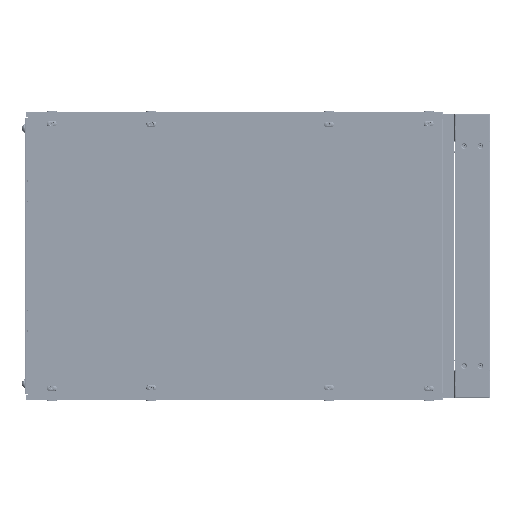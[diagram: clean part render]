
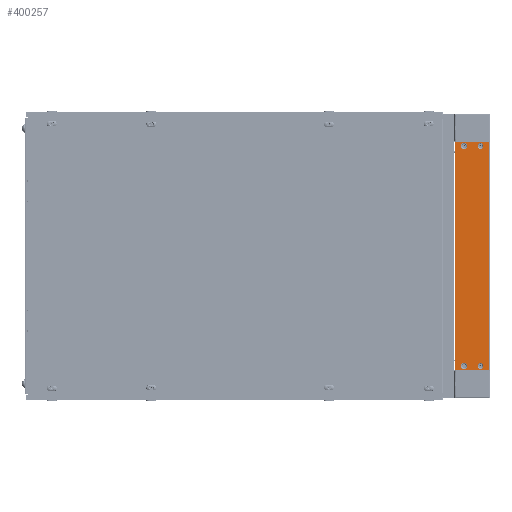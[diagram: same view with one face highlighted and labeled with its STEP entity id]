
A CAD part, left-side view. The second image highlights one B-rep face of the part: STEP entity #400257.
In plain terms, the highlighted planar face has unit normal (-1, 0, 0) as drawn and (0, -1, 0) by its records, which use the part's own axes.
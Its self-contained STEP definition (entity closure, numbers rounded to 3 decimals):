
#1786 = CIRCLE ( 'NONE', #296870, 8.743 ) ;
#3311 = CARTESIAN_POINT ( 'NONE',  ( 11.025, 0., -25.25 ) ) ;
#5370 = CARTESIAN_POINT ( 'NONE',  ( 11.025, 0., -25.25 ) ) ;
#12457 = CARTESIAN_POINT ( 'NONE',  ( 641.04, 0., 0. ) ) ;
#25579 = VERTEX_POINT ( 'NONE', #273164 ) ;
#25928 = CARTESIAN_POINT ( 'NONE',  ( 641.04, 0., -96.5 ) ) ;
#32817 = AXIS2_PLACEMENT_3D ( 'NONE', #221524, #593858, #125758 ) ;
#35091 = EDGE_CURVE ( 'NONE', #70507, #25579, #203721, .T. ) ;
#36405 = DIRECTION ( 'NONE',  ( 0., -1., 0. ) ) ;
#38940 = CARTESIAN_POINT ( 'NONE',  ( 0., 0., 0. ) ) ;
#46630 = ORIENTED_EDGE ( 'NONE', *, *, #508165, .F. ) ;
#55909 = CIRCLE ( 'NONE', #132009, 8.246 ) ;
#64739 = EDGE_LOOP ( 'NONE', ( #244406, #391349 ) ) ;
#65874 = DIRECTION ( 'NONE',  ( 0., 0., 1. ) ) ;
#70507 = VERTEX_POINT ( 'NONE', #217536 ) ;
#72001 = DIRECTION ( 'NONE',  ( 0., -1., 0. ) ) ;
#89650 = EDGE_CURVE ( 'NONE', #151070, #188735, #316711, .T. ) ;
#93564 = LINE ( 'NONE', #38940, #591510 ) ;
#95186 = CARTESIAN_POINT ( 'NONE',  ( 0., 0., -96.5 ) ) ;
#97997 = EDGE_LOOP ( 'NONE', ( #185400, #46630 ) ) ;
#111381 = LINE ( 'NONE', #582845, #235482 ) ;
#121404 = DIRECTION ( 'NONE',  ( 0., -1., 0. ) ) ;
#125758 = DIRECTION ( 'NONE',  ( 0., 0., 1. ) ) ;
#132009 = AXIS2_PLACEMENT_3D ( 'NONE', #599492, #439046, #185970 ) ;
#135337 = ORIENTED_EDGE ( 'NONE', *, *, #578599, .F. ) ;
#151070 = VERTEX_POINT ( 'NONE', #667658 ) ;
#165254 = VERTEX_POINT ( 'NONE', #331822 ) ;
#165535 = AXIS2_PLACEMENT_3D ( 'NONE', #3311, #420173, #628522 ) ;
#173407 = CARTESIAN_POINT ( 'NONE',  ( 11.025, 0., -71.25 ) ) ;
#174474 = CARTESIAN_POINT ( 'NONE',  ( 11.025, 0., -71.25 ) ) ;
#185400 = ORIENTED_EDGE ( 'NONE', *, *, #35091, .F. ) ;
#185970 = DIRECTION ( 'NONE',  ( 0., 0., 1. ) ) ;
#188735 = VERTEX_POINT ( 'NONE', #350189 ) ;
#193379 = DIRECTION ( 'NONE',  ( 0., -1., 0. ) ) ;
#196734 = EDGE_CURVE ( 'NONE', #165254, #423946, #457187, .T. ) ;
#196773 = CARTESIAN_POINT ( 'NONE',  ( 630.015, 0., -71.25 ) ) ;
#201173 = CIRCLE ( 'NONE', #419300, 8.743 ) ;
#203721 = CIRCLE ( 'NONE', #345713, 8.743 ) ;
#209254 = LINE ( 'NONE', #308453, #403330 ) ;
#217536 = CARTESIAN_POINT ( 'NONE',  ( 11.025, 0., -79.993 ) ) ;
#221524 = CARTESIAN_POINT ( 'NONE',  ( 630.015, 0., -25.25 ) ) ;
#226606 = EDGE_LOOP ( 'NONE', ( #260199, #239374, #675664, #629855 ) ) ;
#235482 = VECTOR ( 'NONE', #313031, 1000. ) ;
#239195 = AXIS2_PLACEMENT_3D ( 'NONE', #5370, #121404, #644122 ) ;
#239374 = ORIENTED_EDGE ( 'NONE', *, *, #507081, .F. ) ;
#244406 = ORIENTED_EDGE ( 'NONE', *, *, #455892, .F. ) ;
#245641 = DIRECTION ( 'NONE',  ( 0., 0., -1. ) ) ;
#245651 = CIRCLE ( 'NONE', #550993, 8.743 ) ;
#260199 = ORIENTED_EDGE ( 'NONE', *, *, #569573, .F. ) ;
#273164 = CARTESIAN_POINT ( 'NONE',  ( 11.025, 0., -62.507 ) ) ;
#277453 = ORIENTED_EDGE ( 'NONE', *, *, #327377, .F. ) ;
#296870 = AXIS2_PLACEMENT_3D ( 'NONE', #196773, #193379, #613626 ) ;
#308453 = CARTESIAN_POINT ( 'NONE',  ( 0., 0., 0. ) ) ;
#313031 = DIRECTION ( 'NONE',  ( -1., 0., 0. ) ) ;
#316711 = CIRCLE ( 'NONE', #32817, 8.246 ) ;
#324012 = VERTEX_POINT ( 'NONE', #25928 ) ;
#326048 = CARTESIAN_POINT ( 'NONE',  ( 0., 0., -96.5 ) ) ;
#327377 = EDGE_CURVE ( 'NONE', #188735, #151070, #55909, .T. ) ;
#331822 = CARTESIAN_POINT ( 'NONE',  ( 11.025, 0., -17.004 ) ) ;
#344009 = EDGE_CURVE ( 'NONE', #402180, #631657, #93564, .T. ) ;
#344027 = CARTESIAN_POINT ( 'NONE',  ( 630.015, 0., -71.25 ) ) ;
#344068 = CARTESIAN_POINT ( 'NONE',  ( 630.015, 0., -62.507 ) ) ;
#345713 = AXIS2_PLACEMENT_3D ( 'NONE', #173407, #535697, #638159 ) ;
#348219 = FACE_BOUND ( 'NONE', #97997, .T. ) ;
#350189 = CARTESIAN_POINT ( 'NONE',  ( 630.015, 0., -17.004 ) ) ;
#354913 = DIRECTION ( 'NONE',  ( 0., -1., 0. ) ) ;
#364555 = DIRECTION ( 'NONE',  ( 0., 0., -1. ) ) ;
#371282 = LINE ( 'NONE', #12457, #530048 ) ;
#391349 = ORIENTED_EDGE ( 'NONE', *, *, #196734, .F. ) ;
#396182 = VERTEX_POINT ( 'NONE', #344068 ) ;
#400257 = ADVANCED_FACE ( 'NONE', ( #669229, #604489, #617920, #662445, #348219 ), #563311, .T. ) ;
#402180 = VERTEX_POINT ( 'NONE', #611185 ) ;
#403330 = VECTOR ( 'NONE', #622738, 1000. ) ;
#416808 = CIRCLE ( 'NONE', #165535, 8.246 ) ;
#419300 = AXIS2_PLACEMENT_3D ( 'NONE', #344027, #36405, #65874 ) ;
#420173 = DIRECTION ( 'NONE',  ( 0., -1., 0. ) ) ;
#423946 = VERTEX_POINT ( 'NONE', #505943 ) ;
#427185 = AXIS2_PLACEMENT_3D ( 'NONE', #95186, #354913, #245641 ) ;
#439046 = DIRECTION ( 'NONE',  ( 0., -1., 0. ) ) ;
#455892 = EDGE_CURVE ( 'NONE', #423946, #165254, #416808, .T. ) ;
#457187 = CIRCLE ( 'NONE', #239195, 8.246 ) ;
#462255 = CARTESIAN_POINT ( 'NONE',  ( 641.04, 0., 0. ) ) ;
#462715 = EDGE_CURVE ( 'NONE', #510192, #396182, #1786, .T. ) ;
#484049 = EDGE_LOOP ( 'NONE', ( #135337, #666388 ) ) ;
#505943 = CARTESIAN_POINT ( 'NONE',  ( 11.025, 0., -33.496 ) ) ;
#507081 = EDGE_CURVE ( 'NONE', #324012, #519067, #111381, .T. ) ;
#508165 = EDGE_CURVE ( 'NONE', #25579, #70507, #245651, .T. ) ;
#510192 = VERTEX_POINT ( 'NONE', #660885 ) ;
#511754 = EDGE_LOOP ( 'NONE', ( #277453, #638232 ) ) ;
#519067 = VERTEX_POINT ( 'NONE', #326048 ) ;
#530048 = VECTOR ( 'NONE', #364555, 1000. ) ;
#535697 = DIRECTION ( 'NONE',  ( 0., -1., 0. ) ) ;
#550993 = AXIS2_PLACEMENT_3D ( 'NONE', #174474, #72001, #591351 ) ;
#563311 = PLANE ( 'NONE',  #427185 ) ;
#569573 = EDGE_CURVE ( 'NONE', #519067, #402180, #209254, .T. ) ;
#578599 = EDGE_CURVE ( 'NONE', #396182, #510192, #201173, .T. ) ;
#582845 = CARTESIAN_POINT ( 'NONE',  ( 0., 0., -96.5 ) ) ;
#591351 = DIRECTION ( 'NONE',  ( 0., 0., -1. ) ) ;
#591510 = VECTOR ( 'NONE', #612921, 1000. ) ;
#593858 = DIRECTION ( 'NONE',  ( 0., -1., 0. ) ) ;
#599492 = CARTESIAN_POINT ( 'NONE',  ( 630.015, 0., -25.25 ) ) ;
#604489 = FACE_BOUND ( 'NONE', #511754, .T. ) ;
#611185 = CARTESIAN_POINT ( 'NONE',  ( 0., 0., 0. ) ) ;
#612921 = DIRECTION ( 'NONE',  ( 1., 0., 0. ) ) ;
#613626 = DIRECTION ( 'NONE',  ( 0., 0., 1. ) ) ;
#617920 = FACE_OUTER_BOUND ( 'NONE', #226606, .T. ) ;
#622738 = DIRECTION ( 'NONE',  ( 0., 0., 1. ) ) ;
#627605 = EDGE_CURVE ( 'NONE', #631657, #324012, #371282, .T. ) ;
#628522 = DIRECTION ( 'NONE',  ( 0., 0., -1. ) ) ;
#629855 = ORIENTED_EDGE ( 'NONE', *, *, #344009, .F. ) ;
#631657 = VERTEX_POINT ( 'NONE', #462255 ) ;
#638159 = DIRECTION ( 'NONE',  ( 0., 0., -1. ) ) ;
#638232 = ORIENTED_EDGE ( 'NONE', *, *, #89650, .F. ) ;
#644122 = DIRECTION ( 'NONE',  ( 0., 0., -1. ) ) ;
#660885 = CARTESIAN_POINT ( 'NONE',  ( 630.015, 0., -79.993 ) ) ;
#662445 = FACE_BOUND ( 'NONE', #64739, .T. ) ;
#666388 = ORIENTED_EDGE ( 'NONE', *, *, #462715, .F. ) ;
#667658 = CARTESIAN_POINT ( 'NONE',  ( 630.015, 0., -33.496 ) ) ;
#669229 = FACE_BOUND ( 'NONE', #484049, .T. ) ;
#675664 = ORIENTED_EDGE ( 'NONE', *, *, #627605, .F. ) ;
